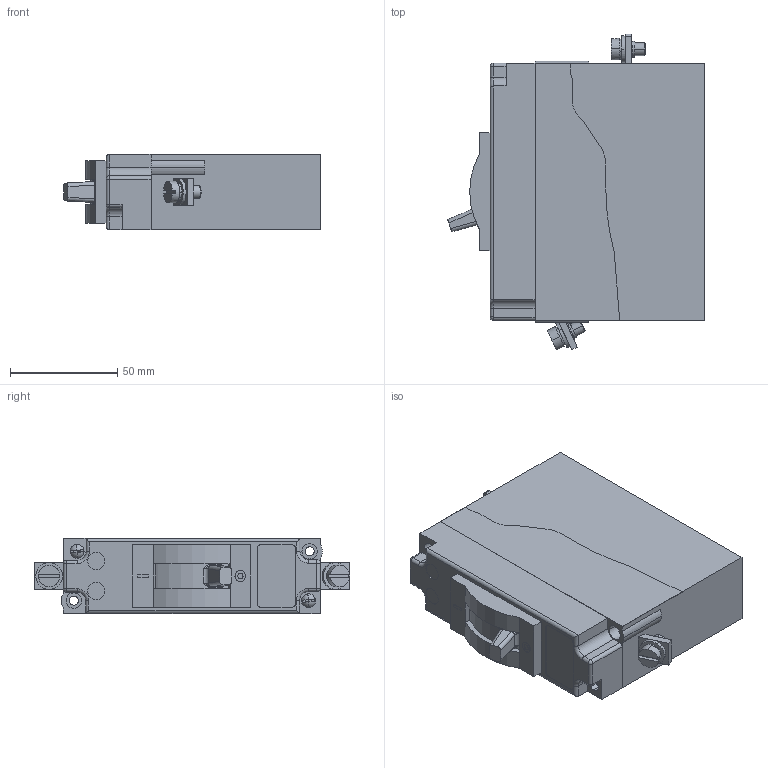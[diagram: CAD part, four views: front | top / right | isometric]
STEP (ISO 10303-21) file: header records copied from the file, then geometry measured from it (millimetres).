
FILE_DESCRIPTION (( 'STEP AP214' ), '1' );
FILE_NAME ('Àâòîìàòè÷åñêèé âûêëþ÷àòåëü ÂÀ21-1.STEP', '2013-12-18T10:52:40', ( 'www.PHILka.RU' ), ( 'WareZ Provider ' ), 'SwSTEP 2.0', 'SolidWorks 2007', '' );
FILE_SCHEMA (( 'AUTOMOTIVE_DESIGN' ));
Length unit declared in the file: millimetre
Products named in the file (1): Àâòîìàòè÷åñêèé âûêëþ÷àòåëü ÂÀ21-1
Bounding box: 119.77 x 147.25 x 35 mm (x, y, z)
Surface area: 57267.2 mm2 (no closed solid volume)
Topology: 0 solids, 20 shells, 240 faces, 778 edges, 558 vertices
Faces by surface type: plane 113, cylinder 91, torus 12, cone 8, bspline 8, sphere 8
Entity records: 11567 total; most frequent: CARTESIAN_POINT 2021, DIRECTION 1506, ORIENTED_EDGE 1280, EDGE_CURVE 774, VERTEX_POINT 558, AXIS2_PLACEMENT_3D 533, VECTOR 440, LINE 440
